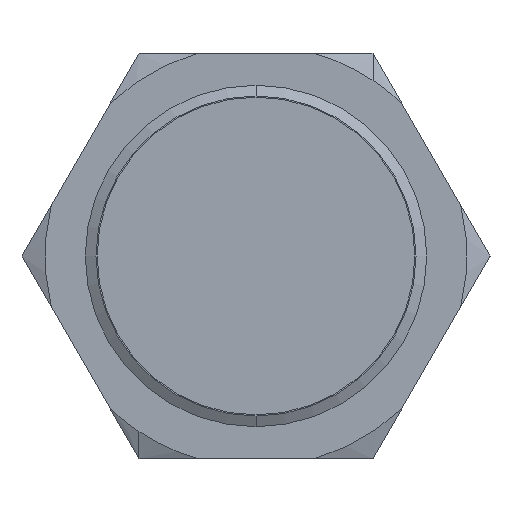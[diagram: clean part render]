
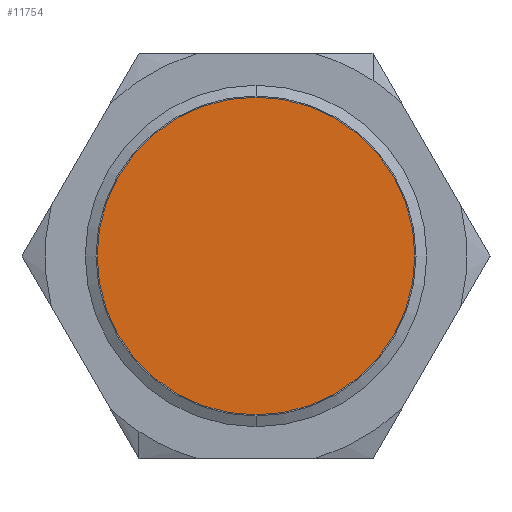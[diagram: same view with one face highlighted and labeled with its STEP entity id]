
A CAD part, left-side view. The second image highlights one B-rep face of the part: STEP entity #11754.
In plain terms, the highlighted planar face has unit normal (-1, 0, 0).
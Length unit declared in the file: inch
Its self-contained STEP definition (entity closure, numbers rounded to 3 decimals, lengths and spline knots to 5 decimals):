
#285 = EDGE_CURVE ( 'NONE', #8581, #9725, #6603, .T. ) ;
#1295 = FACE_OUTER_BOUND ( 'NONE', #11502, .T. ) ;
#1296 = PLANE ( 'NONE',  #1297 ) ;
#1297 = AXIS2_PLACEMENT_3D ( 'NONE', #1298, #1299, #1300 ) ;
#1298 = CARTESIAN_POINT ( 'NONE',  ( 0., 0., 0. ) ) ;
#1299 = DIRECTION ( 'NONE',  ( 1., 0., 0. ) ) ;
#1300 = DIRECTION ( 'NONE',  ( 0., 0., -1. ) ) ;
#5375 = ORIENTED_EDGE ( 'NONE', *, *, #8816, .F. ) ;
#6603 = CIRCLE ( 'NONE', #6608, 0.55 ) ;
#6608 = AXIS2_PLACEMENT_3D ( 'NONE', #6609, #6610, #6611 ) ;
#6609 = CARTESIAN_POINT ( 'NONE',  ( 0., 0., 0. ) ) ;
#6610 = DIRECTION ( 'NONE',  ( 1., 0., 0. ) ) ;
#6611 = DIRECTION ( 'NONE',  ( 0., 0., 1. ) ) ;
#8581 = VERTEX_POINT ( 'NONE', #10634 ) ;
#8816 = EDGE_CURVE ( 'NONE', #9725, #8581, #10794, .T. ) ;
#9725 = VERTEX_POINT ( 'NONE', #11384 ) ;
#10634 = CARTESIAN_POINT ( 'NONE',  ( 0., 0., 0.55 ) ) ;
#10790 = ORIENTED_EDGE ( 'NONE', *, *, #285, .F. ) ;
#10794 = CIRCLE ( 'NONE', #10795, 0.55 ) ;
#10795 = AXIS2_PLACEMENT_3D ( 'NONE', #10796, #10797, #10798 ) ;
#10796 = CARTESIAN_POINT ( 'NONE',  ( 0., 0., 0. ) ) ;
#10797 = DIRECTION ( 'NONE',  ( 1., 0., 0. ) ) ;
#10798 = DIRECTION ( 'NONE',  ( 0., 0., 1. ) ) ;
#11384 = CARTESIAN_POINT ( 'NONE',  ( 0., 0., -0.55 ) ) ;
#11502 = EDGE_LOOP ( 'NONE', ( #10790, #5375 ) ) ;
#11754 = ADVANCED_FACE ( 'NONE', ( #1295 ), #1296, .F. ) ;
